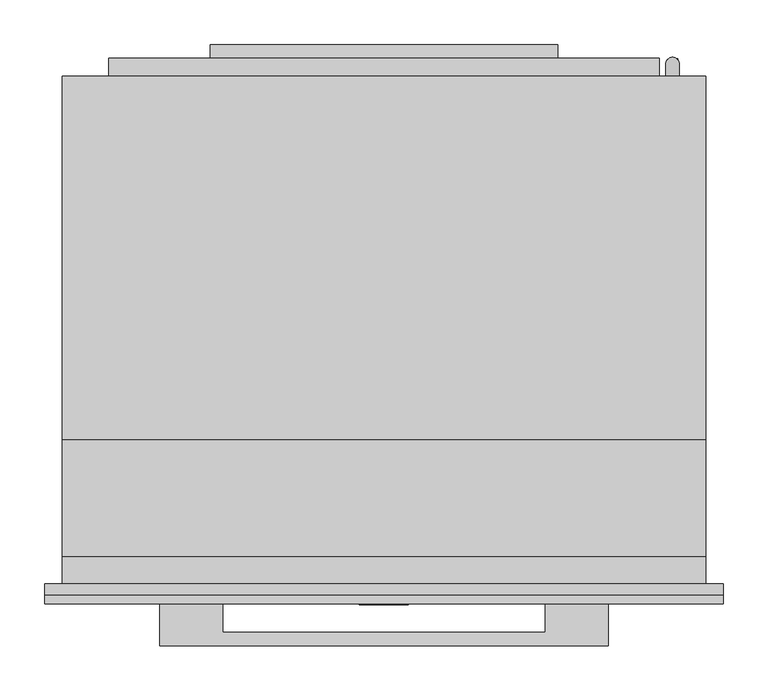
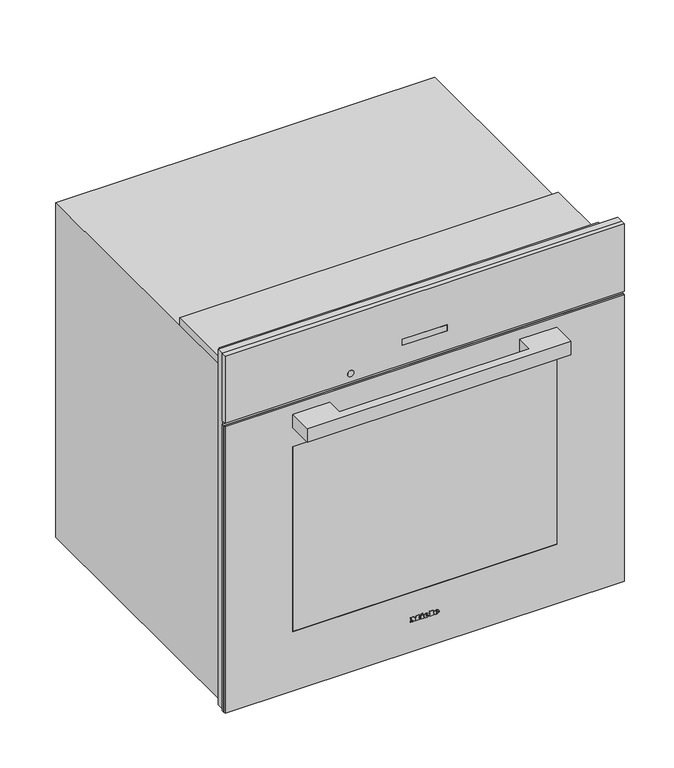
"""IFC4 building model written with IfcOpenShell, lengths in millimetres: proxy geometry, 11968200_USA_H7280BP_OBSW : 22728025_USA_11968200_H7280BP_OBSW."""

from ifc_helpers import new_model, si_unit, point, frame, frame_2d, origin, place, context, project, spatial, polyline, circle_curve, ellipse_curve, trimmed, segment, composite_curve, outline, extrude, faceted_brep, source, transform, mapped, element, save
from ifc_brep_helpers import plane_surface, cylinder_surface, revolved_surface, extruded_surface, advanced_brep


def specialty_equipment_3b69b740(model_context):
    return source(origin(), model_context, "Body", "SolidModel", [
        advanced_brep(
        [(21.28, -23.0, 73.133), (21.28, -23.0, 74.042), (27.301, -23.0, 74.042), (16.825, -23.0, 74.042), (19.3, -23.0, 71.0), (27.148, -23.0, 73.133), (24.43, -23.0, 73.133), (22.288, -23.0, 72.125), (21.28, -23.0, 75.194), (21.28, -23.0, 76.175), (22.819, -23.0, 76.175), (22.819, -23.0, 75.194), (21.28, -22.0, 73.133), (22.288, -22.0, 72.125), (24.43, -22.0, 73.133), (27.148, -22.0, 73.133), (19.3, -22.0, 71.0), (16.825, -22.0, 74.042), (27.301, -22.0, 74.042), (21.28, -22.0, 74.042), (21.28, -22.0, 75.194), (22.819, -22.0, 75.194), (22.819, -22.0, 76.175), (21.28, -22.0, 76.175)],
        [
            (0, 1),
            (1, 2),
            (2, 3, ellipse_curve(frame((22.063, -23.0, 74.042), z_axis=(0.0, -1.0, 0.0), x_axis=(-1.0, 0.0, 0.0)), 5.238, 4.329)),
            (3, 4, circle_curve(frame((20.3080491, -23.0, 74.348), z_axis=(0.0, -1.0, 0.0), x_axis=(0.0, 0.0, -1.0)), 3.4964649)),
            (4, 5, circle_curve(frame((21.9581428, -23.0, 76.724), z_axis=(0.0, -1.0, 0.0), x_axis=(0.0, 0.0, -1.0)), 6.3110933)),
            (5, 6),
            (6, 7, circle_curve(frame((22.7279412, -23.0, 73.97), z_axis=(0.0, 1.0, 0.0), x_axis=(0.0, 0.0, -1.0)), 1.896727)),
            (7, 0, circle_curve(frame((22.288, -23.0, 73.133), z_axis=(0.0, 1.0, 0.0), x_axis=(0.0, 0.0, -1.0)), 1.008)),
            (8, 9),
            (9, 10, circle_curve(frame((22.0495, -23.0, 76.175), z_axis=(0.0, 1.0, 0.0), x_axis=(0.0, 0.0, -1.0)), 0.7695)),
            (10, 11),
            (11, 8),
            (12, 13, circle_curve(frame((22.288, -22.0, 73.133), z_axis=(0.0, -1.0, 0.0), x_axis=(0.0, 0.0, -1.0)), 1.008)),
            (13, 14, circle_curve(frame((22.7279412, -22.0, 73.97), z_axis=(0.0, -1.0, 0.0), x_axis=(0.0, 0.0, -1.0)), 1.896727)),
            (14, 15),
            (15, 16, circle_curve(frame((21.9581428, -22.0, 76.724), z_axis=(0.0, 1.0, 0.0), x_axis=(0.0, 0.0, -1.0)), 6.3110933)),
            (16, 17, circle_curve(frame((20.3080491, -22.0, 74.348), z_axis=(0.0, 1.0, 0.0), x_axis=(0.0, 0.0, -1.0)), 3.4964649)),
            (17, 18, ellipse_curve(frame((22.063, -22.0, 74.042), z_axis=(0.0, 1.0, 0.0), x_axis=(-1.0, 0.0, 0.0)), 5.238, 4.329)),
            (18, 19),
            (19, 12),
            (20, 21),
            (21, 22),
            (22, 23, circle_curve(frame((22.0495, -22.0, 76.175), z_axis=(0.0, -1.0, 0.0), x_axis=(0.0, 0.0, -1.0)), 0.7695)),
            (23, 20),
            (0, 12),
            (19, 1),
            (18, 2),
            (5, 15),
            (14, 6),
            (17, 3),
            (13, 7),
            (16, 4),
            (8, 20),
            (23, 9),
            (22, 10),
            (21, 11),
        ],
        [
            plane_surface(frame((21.28, -23.0, 74.042), z_axis=(0.0, -1.0, 0.0), x_axis=(0.0, 0.0, 1.0))),
            plane_surface(frame((21.28, -22.0, 74.042), z_axis=(0.0, 1.0, 0.0), x_axis=(0.0, 0.0, -1.0))),
            plane_surface(frame((21.28, -23.0, 73.133), z_axis=(1.0, 0.0, 0.0), x_axis=(0.0, 1.0, 0.0))),
            plane_surface(frame((21.28, -23.0, 74.042), z_axis=(0.0, 0.0, -1.0), x_axis=(0.0, 1.0, 0.0))),
            plane_surface(frame((27.148, -23.0, 73.133), z_axis=(0.0, 0.0, 1.0), x_axis=(0.0, 1.0, 0.0))),
            extruded_surface(trimmed(ellipse_curve(frame((22.063, -21.0, 74.042), z_axis=(0.0, -1.0, 0.0), x_axis=(-1.0, 0.0, 0.0)), 5.238, 4.329), [point((27.301, -21.0, 74.042))], [point((16.825, -21.0, 74.042))], True, "CARTESIAN"), (0.0, -1.0, 0.0), 1.0),
            revolved_surface(polyline([(22.7279412, -22.0, 72.073273), (22.7279412, -23.0, 72.073273)]), (22.7279412, -22.0, 73.97), (0.0, 1.0, 0.0)),
            revolved_surface(polyline([(22.288, -22.0, 72.125), (22.288, -23.0, 72.125)]), (22.288, -22.0, 73.133), (0.0, 1.0, 0.0)),
            cylinder_surface(frame((20.3080491, -22.0, 74.348), z_axis=(0.0, -1.0, 0.0), x_axis=(0.0, 0.0, -1.0)), 3.4964649),
            cylinder_surface(frame((21.9581428, -22.0, 76.724), z_axis=(0.0, -1.0, 0.0), x_axis=(0.0, 0.0, -1.0)), 6.3110933),
            plane_surface(frame((21.28, -23.0, 75.194), z_axis=(1.0, 0.0, 0.0), x_axis=(0.0, 1.0, 0.0))),
            revolved_surface(polyline([(22.0495, -22.0, 75.4055), (22.0495, -23.0, 75.4055)]), (22.0495, -22.0, 76.175), (0.0, 1.0, 0.0)),
            plane_surface(frame((22.819, -23.0, 76.175), z_axis=(-1.0, 0.0, 0.0), x_axis=(0.0, 1.0, 0.0))),
            plane_surface(frame((22.819, -23.0, 75.194), z_axis=(0.0, 0.0, 1.0), x_axis=(0.0, 1.0, 0.0))),
        ],
        [
            (0, [[1, 2, 3, 4, 5, 6, 7, 8], [9, 10, 11, 12]]),
            (1, [[13, 14, 15, 16, 17, 18, 19, 20], [21, 22, 23, 24]]),
            (2, [[-1, 25, -20, 26]]),
            (3, [[-2, -26, -19, 27]]),
            (4, [[-6, 28, -15, 29]]),
            (5, [[-3, -27, -18, 30]]),
            (6, [[-7, -29, -14, 31]]),
            (7, [[-8, -31, -13, -25]]),
            (8, [[-4, -30, -17, 32]]),
            (9, [[-5, -32, -16, -28]]),
            (10, [[-9, 33, -24, 34]]),
            (11, [[-10, -34, -23, 35]]),
            (12, [[-11, -35, -22, 36]]),
            (13, [[-12, -36, -21, -33]]),
        ],
    ),
        advanced_brep(
        [(2.497, -23.0, 73.133), (2.497, -23.0, 74.042), (8.518, -23.0, 74.042), (-1.958, -23.0, 74.042), (0.517, -23.0, 71.0), (8.365, -23.0, 73.133), (5.647, -23.0, 73.133), (3.505, -23.0, 72.125), (2.497, -23.0, 75.194), (2.497, -23.0, 76.175), (4.036, -23.0, 76.175), (4.036, -23.0, 75.194), (2.497, -22.0, 73.133), (3.505, -22.0, 72.125), (5.647, -22.0, 73.133), (8.365, -22.0, 73.133), (0.517, -22.0, 71.0), (-1.958, -22.0, 74.042), (8.518, -22.0, 74.042), (2.497, -22.0, 74.042), (2.497, -22.0, 75.194), (4.036, -22.0, 75.194), (4.036, -22.0, 76.175), (2.497, -22.0, 76.175)],
        [
            (0, 1),
            (1, 2),
            (2, 3, ellipse_curve(frame((3.28, -23.0, 74.042), z_axis=(0.0, -1.0, 0.0), x_axis=(-1.0, 0.0, 0.0)), 5.238, 4.329)),
            (3, 4, circle_curve(frame((1.5250491, -23.0, 74.348), z_axis=(0.0, -1.0, 0.0), x_axis=(0.0, 0.0, -1.0)), 3.4964649)),
            (4, 5, circle_curve(frame((3.1751428, -23.0, 76.724), z_axis=(0.0, -1.0, 0.0), x_axis=(0.0, 0.0, -1.0)), 6.3110933)),
            (5, 6),
            (6, 7, circle_curve(frame((3.9449412, -23.0, 73.97), z_axis=(0.0, 1.0, 0.0), x_axis=(0.0, 0.0, -1.0)), 1.896727)),
            (7, 0, circle_curve(frame((3.505, -23.0, 73.133), z_axis=(0.0, 1.0, 0.0), x_axis=(0.0, 0.0, -1.0)), 1.008)),
            (8, 9),
            (9, 10, circle_curve(frame((3.2665, -23.0, 76.175), z_axis=(0.0, 1.0, 0.0), x_axis=(0.0, 0.0, -1.0)), 0.7695)),
            (10, 11),
            (11, 8),
            (12, 13, circle_curve(frame((3.505, -22.0, 73.133), z_axis=(0.0, -1.0, 0.0), x_axis=(0.0, 0.0, -1.0)), 1.008)),
            (13, 14, circle_curve(frame((3.9449412, -22.0, 73.97), z_axis=(0.0, -1.0, 0.0), x_axis=(0.0, 0.0, -1.0)), 1.896727)),
            (14, 15),
            (15, 16, circle_curve(frame((3.1751428, -22.0, 76.724), z_axis=(0.0, 1.0, 0.0), x_axis=(0.0, 0.0, -1.0)), 6.3110933)),
            (16, 17, circle_curve(frame((1.5250491, -22.0, 74.348), z_axis=(0.0, 1.0, 0.0), x_axis=(0.0, 0.0, -1.0)), 3.4964649)),
            (17, 18, ellipse_curve(frame((3.28, -22.0, 74.042), z_axis=(0.0, 1.0, 0.0), x_axis=(-1.0, 0.0, 0.0)), 5.238, 4.329)),
            (18, 19),
            (19, 12),
            (20, 21),
            (21, 22),
            (22, 23, circle_curve(frame((3.2665, -22.0, 76.175), z_axis=(0.0, -1.0, 0.0), x_axis=(0.0, 0.0, -1.0)), 0.7695)),
            (23, 20),
            (0, 12),
            (19, 1),
            (18, 2),
            (5, 15),
            (14, 6),
            (17, 3),
            (13, 7),
            (16, 4),
            (8, 20),
            (23, 9),
            (22, 10),
            (21, 11),
        ],
        [
            plane_surface(frame((2.497, -23.0, 74.042), z_axis=(0.0, -1.0, 0.0), x_axis=(0.0, 0.0, 1.0))),
            plane_surface(frame((2.497, -22.0, 74.042), z_axis=(0.0, 1.0, 0.0), x_axis=(0.0, 0.0, -1.0))),
            plane_surface(frame((2.497, -23.0, 73.133), z_axis=(1.0, 0.0, 0.0), x_axis=(0.0, 1.0, 0.0))),
            plane_surface(frame((2.497, -23.0, 74.042), z_axis=(0.0, 0.0, -1.0), x_axis=(0.0, 1.0, 0.0))),
            plane_surface(frame((8.365, -23.0, 73.133), z_axis=(0.0, 0.0, 1.0), x_axis=(0.0, 1.0, 0.0))),
            extruded_surface(trimmed(ellipse_curve(frame((3.28, -21.0, 74.042), z_axis=(0.0, -1.0, 0.0), x_axis=(-1.0, 0.0, 0.0)), 5.238, 4.329), [point((8.518, -21.0, 74.042))], [point((-1.958, -21.0, 74.042))], True, "CARTESIAN"), (0.0, -1.0, 0.0), 1.0),
            revolved_surface(polyline([(3.9449412, -22.0, 72.073273), (3.9449412, -23.0, 72.073273)]), (3.9449412, -22.0, 73.97), (0.0, 1.0, 0.0)),
            revolved_surface(polyline([(3.505, -22.0, 72.125), (3.505, -23.0, 72.125)]), (3.505, -22.0, 73.133), (0.0, 1.0, 0.0)),
            cylinder_surface(frame((1.5250491, -22.0, 74.348), z_axis=(0.0, -1.0, 0.0), x_axis=(0.0, 0.0, -1.0)), 3.4964649),
            cylinder_surface(frame((3.1751428, -22.0, 76.724), z_axis=(0.0, -1.0, 0.0), x_axis=(0.0, 0.0, -1.0)), 6.3110933),
            plane_surface(frame((2.497, -23.0, 75.194), z_axis=(1.0, 0.0, 0.0), x_axis=(0.0, 1.0, 0.0))),
            revolved_surface(polyline([(3.2665, -22.0, 75.4055), (3.2665, -23.0, 75.4055)]), (3.2665, -22.0, 76.175), (0.0, 1.0, 0.0)),
            plane_surface(frame((4.036, -23.0, 76.175), z_axis=(-1.0, 0.0, 0.0), x_axis=(0.0, 1.0, 0.0))),
            plane_surface(frame((4.036, -23.0, 75.194), z_axis=(0.0, 0.0, 1.0), x_axis=(0.0, 1.0, 0.0))),
        ],
        [
            (0, [[1, 2, 3, 4, 5, 6, 7, 8], [9, 10, 11, 12]]),
            (1, [[13, 14, 15, 16, 17, 18, 19, 20], [21, 22, 23, 24]]),
            (2, [[-1, 25, -20, 26]]),
            (3, [[-2, -26, -19, 27]]),
            (4, [[-6, 28, -15, 29]]),
            (5, [[-3, -27, -18, 30]]),
            (6, [[-7, -29, -14, 31]]),
            (7, [[-8, -31, -13, -25]]),
            (8, [[-4, -30, -17, 32]]),
            (9, [[-5, -32, -16, -28]]),
            (10, [[-9, 33, -24, 34]]),
            (11, [[-10, -34, -23, 35]]),
            (12, [[-11, -35, -22, 36]]),
            (13, [[-12, -36, -21, -33]]),
        ],
    ),
        extrude(outline(polyline([(79.469, -7.34), (78.011, -6.656), (79.433, -3.605), (80.891, -4.28), (79.469, -7.34)])), frame((0.0, -23.0, 0.0), z_axis=(0.0, 1.0, 0.0), x_axis=(0.0, 0.0, 1.0)), (0.0, 0.0, 1.0), 1.0),
        extrude(outline(polyline([(77.813, -9.563), (76.202, -9.563), (76.202, -8.492), (72.512, -8.492), (72.512, -9.563), (71.0, -9.563), (71.0, -2.462), (72.512, -2.462), (72.512, -3.506), (77.813, -3.506), (77.813, -9.563)])), frame((0.0, -23.0, 0.0), z_axis=(0.0, 1.0, 0.0), x_axis=(0.0, 0.0, 1.0)), (0.0, 0.0, 1.0), 1.0),
        extrude(outline(polyline([(78.533, 9.022), (78.533, 10.102), (72.512, 10.102), (72.512, 9.022), (71.0, 9.022), (71.0, 16.321), (72.512, 16.321), (72.512, 15.214), (80.0, 15.214), (80.0, 9.022), (78.533, 9.022)])), frame((0.0, -23.0, 0.0), z_axis=(0.0, 1.0, 0.0), x_axis=(0.0, 0.0, 1.0)), (0.0, 0.0, 1.0), 1.0),
        extrude(outline(polyline([(78.533, -27.5), (78.533, -26.411), (72.512, -26.411), (72.512, -27.5), (71.0, -27.5), (71.0, -23.54), (72.512, -23.54), (72.512, -24.62), (76.3341247, -24.62), (71.0, -20.597), (76.4402223, -16.556), (72.512, -16.556), (72.512, -17.663), (71.0, -17.663), (71.0, -10.481), (72.512, -10.481), (72.512, -11.624), (78.533, -11.624), (78.533, -10.481), (80.0, -10.481), (80.0, -15.962), (76.625, -18.59), (80.0, -21.227), (80.0, -27.5), (78.533, -27.5)])), frame((0.0, -23.0, 0.0), z_axis=(0.0, 1.0, 0.0), x_axis=(0.0, 0.0, 1.0)), (0.0, 0.0, 1.0), 1.0),
        extrude(outline(polyline([(-250.0, -69.0), (-250.0, -22.0), (-180.0, -22.0), (-180.0, -54.0), (180.0, -54.0), (180.0, -22.0), (250.0, -22.0), (250.0, -69.0), (-250.0, -69.0)])), frame((0.0, 0.0, 538.0), z_axis=(0.0, 0.0, 1.0), x_axis=(1.0, 0.0, 0.0)), (0.0, 0.0, 1.0), 27.0),
        extrude(outline(polyline([(378.5, -18.0), (-378.5, -18.0), (-378.5, -13.0), (378.5, -13.0), (378.5, -18.0)])), frame((0.0, 0.0, 11.0), z_axis=(0.0, 0.0, 1.0), x_axis=(1.0, 0.0, 0.0)), (0.0, 0.0, 1.0), 574.0),
        extrude(outline(polyline([(585.0, 378.5), (585.0, -378.5), (11.0, -378.5), (11.0, 378.5), (585.0, 378.5)]), holes=[polyline([(500.0, 250.5), (130.0, 250.5), (130.0, -250.5), (500.0, -250.5), (500.0, 250.5)])]), frame((0.0, -22.0, 0.0), z_axis=(0.0, 1.0, 0.0), x_axis=(0.0, 0.0, 1.0)), (0.0, 0.0, 1.0), 4.0),
        extrude(outline(polyline([(-250.5, -18.0), (250.5, -18.0), (250.5, -22.0), (-250.5, -22.0), (-250.5, -18.0)])), frame((0.0, 0.0, 130.0), z_axis=(0.0, 0.0, 1.0), x_axis=(1.0, 0.0, 0.0)), (0.0, 0.0, 1.0), 370.0),
        extrude(outline(polyline([(-42.5, -21.0), (42.5, -21.0), (42.5, -22.0), (-42.5, -22.0), (-42.5, -21.0)])), frame((0.0, 0.0, 630.5), z_axis=(0.0, 0.0, 1.0), x_axis=(1.0, 0.0, 0.0)), (0.0, 0.0, 1.0), 12.0),
        faceted_brep([(378.5, -13.0, 727.0), (378.5, -13.0, 592.0), (-378.5, -13.0, 592.0), (-378.5, -13.0, 727.0), (378.5, -22.0, 592.0), (-378.5, -22.0, 592.0), (378.5, -22.0, 727.0), (-378.5, -22.0, 727.0), (42.5, -22.0, 642.5), (42.5, -22.0, 630.5), (-42.5, -22.0, 630.5), (-42.5, -22.0, 642.5), (-42.5, -21.0, 630.5), (-42.5, -21.0, 642.5), (42.5, -21.0, 642.5), (42.5, -21.0, 630.5)], [[[0, 1, 2, 3]], [[4, 5, 2, 1]], [[6, 7, 5, 4], [8, 9, 10, 11]], [[12, 13, 11, 10]], [[13, 14, 8, 11]], [[7, 6, 0, 3]], [[5, 7, 3, 2]], [[6, 4, 1, 0]], [[14, 13, 12, 15]], [[14, 15, 9, 8]], [[15, 12, 10, 9]]]),
        extrude(outline(composite_curve([segment(trimmed(circle_curve(frame_2d((609.0, -140.5745637)), 6.0), [point((609.0, -146.5745637))], [point((609.0, -134.5745637))], False, "CARTESIAN"), True, "CONTINUOUS"), segment(trimmed(circle_curve(frame_2d((609.0, -140.5745637)), 6.0), [point((609.0, -134.5745637))], [point((609.0, -146.5745637))], False, "CARTESIAN"), True, "CONTINUOUS")], self_intersect=False)), frame((0.0, -22.5, 0.0), z_axis=(0.0, 1.0, 0.0), x_axis=(0.0, 0.0, 1.0)), (0.0, 0.0, 1.0), 1.0),
        extrude(outline(polyline([(327.856335, 586.4164958), (327.856335, 576.4164958), (322.0, 576.4164958), (322.0, 577.4164958), (326.856335, 577.4164958), (326.856335, 580.9164958), (323.9061855, 580.9164958), (323.9061855, 581.9164958), (326.856335, 581.9164958), (326.856335, 585.4164958), (322.0, 585.4164958), (322.0, 586.4164958), (327.856335, 586.4164958)])), frame((0.0, 0.0, 585.0), z_axis=(0.0, 0.0, 1.0), x_axis=(1.0, 0.0, 0.0)), (0.0, 0.0, 1.0), 1.0),
        extrude(outline(polyline([(320.5, 576.4164958), (315.5, 576.4164958), (315.5, 577.4164958), (319.3952098, 577.4164958), (319.3952098, 586.4164958), (320.5, 586.4164958), (320.5, 576.4164958)])), frame((0.0, 0.0, 585.0), z_axis=(0.0, 0.0, 1.0), x_axis=(1.0, 0.0, 0.0)), (0.0, 0.0, 1.0), 1.0),
        advanced_brep(
        [(329.5, 567.0, 616.0), (314.5, 567.0, 616.0), (329.5, 580.5, 616.0), (314.5, 580.5, 616.0), (329.5, 580.5, 586.0), (314.5, 580.5, 586.0)],
        [
            (0, 1, circle_curve(frame((322.0, 567.0, 616.0), z_axis=(0.0, -1.0, 0.0), x_axis=(-1.0, 0.0, 0.0)), 7.5)),
            (1, 0, circle_curve(frame((322.0, 567.0, 616.0), z_axis=(0.0, -1.0, 0.0), x_axis=(-1.0, 0.0, 0.0)), 7.5)),
            (0, 2),
            (2, 3, ellipse_curve(frame((322.0, 580.5, 616.0), z_axis=(0.0, -0.7071067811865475, 0.7071067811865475), x_axis=(0.0, -0.7071067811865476, -0.7071067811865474)), 10.6066017, 7.5)),
            (3, 1),
            (3, 2, ellipse_curve(frame((322.0, 580.5, 616.0), z_axis=(0.0, -0.7071067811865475, 0.7071067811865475), x_axis=(0.0, -0.7071067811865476, -0.7071067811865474)), 10.6066017, 7.5)),
            (4, 5, circle_curve(frame((322.0, 580.5, 586.0), z_axis=(0.0, 0.0, -1.0), x_axis=(-1.0, 0.0, 0.0)), 7.5)),
            (5, 4, circle_curve(frame((322.0, 580.5, 586.0), z_axis=(0.0, 0.0, -1.0), x_axis=(-1.0, 0.0, 0.0)), 7.5)),
            (2, 4),
            (5, 3),
        ],
        [
            plane_surface(frame((322.0, 567.0, 616.0), z_axis=(0.0, -1.0, 0.0), x_axis=(-1.0, 0.0, 0.0))),
            cylinder_surface(frame((322.0, 567.0, 616.0), z_axis=(0.0, -1.0, 0.0), x_axis=(-1.0, 0.0, 0.0)), 7.5),
            plane_surface(frame((322.0, 580.5, 586.0), z_axis=(0.0, 0.0, -1.0), x_axis=(-1.0, 0.0, 0.0))),
            cylinder_surface(frame((322.0, 580.5, 616.0), z_axis=(0.0, 0.0, 1.0), x_axis=(-1.0, 0.0, 0.0)), 7.5),
        ],
        [
            (0, [[1, 2]]),
            (1, [[-1, 3, 4, 5]]),
            (1, [[-2, -5, 6, -3]]),
            (2, [[7, 8]]),
            (3, [[-4, 9, -8, 10]]),
            (3, [[-6, -10, -7, -9]]),
        ],
    ),
        faceted_brep([(353.5, 25.0, 593.0), (-353.5, 25.0, 593.0), (-353.5, 25.0, 15.0), (353.5, 25.0, 15.0), (-312.5, 25.0, 526.0), (312.5, 25.0, 526.0), (312.5, 25.0, 103.0), (-312.5, 25.0, 103.0), (353.5, 0.0, 593.0), (-353.5, 0.0, 593.0), (-353.5, 0.0, 15.0), (353.5, 0.0, 15.0), (359.0, 0.0, 670.0), (359.0, 0.0, 0.0), (359.0, 567.0, 0.0), (359.0, 567.0, 670.0), (-359.0, 0.0, 0.0), (-359.0, 0.0, 670.0), (-359.0, 567.0, 670.0), (-359.0, 567.0, 0.0), (-307.0, 567.0, 0.0), (-307.0, 587.0, 0.0), (307.0, 587.0, 0.0), (307.0, 567.0, 0.0), (-307.0, 587.0, 584.0), (307.0, 587.0, 584.0), (312.5, 433.0, 526.0), (-312.5, 433.0, 526.0), (-312.5, 433.0, 103.0), (312.5, 433.0, 103.0), (-307.0, 567.0, 584.0), (307.0, 567.0, 584.0)], [[[0, 1, 2, 3], [4, 5, 6, 7]], [[1, 0, 8, 9]], [[2, 1, 9, 10]], [[0, 3, 11, 8]], [[12, 13, 14, 15]], [[16, 17, 18, 19]], [[13, 16, 19, 20, 21, 22, 23, 14]], [[22, 21, 24, 25]], [[17, 12, 15, 18]], [[16, 13, 12, 17], [9, 8, 11, 10]], [[26, 27, 28, 29]], [[27, 26, 5, 4]], [[28, 27, 4, 7]], [[29, 28, 7, 6]], [[26, 29, 6, 5]], [[3, 2, 10, 11]], [[25, 24, 30, 31]], [[20, 30, 24, 21]], [[14, 23, 31, 30, 20, 19, 18, 15]], [[31, 23, 22, 25]]]),
        extrude(outline(polyline([(-194.0, 602.0), (194.0, 602.0), (194.0, 587.0), (-194.0, 587.0), (-194.0, 602.0)])), frame((0.0, 0.0, 230.0), z_axis=(0.0, 0.0, 1.0), x_axis=(1.0, 0.0, 0.0)), (0.0, 0.0, 1.0), 158.0),
        extrude(outline(polyline([(30.0, 705.0), (30.0, 686.0), (161.0, 686.0), (161.0, 670.0), (0.0, 670.0), (0.0, 705.0), (30.0, 705.0)])), frame((-359.0, 0.0, 0.0), z_axis=(1.0, 0.0, 0.0), x_axis=(0.0, 1.0, 0.0)), (0.0, 0.0, 1.0), 718.0),
        extrude(outline(polyline([(15.0, 378.5), (727.0, 378.5), (727.0, -378.5), (15.0, -378.5), (15.0, -353.5), (593.0, -353.5), (593.0, 353.5), (15.0, 353.5), (15.0, 378.5)])), frame((0.0, -13.0, 0.0), z_axis=(0.0, 1.0, 0.0), x_axis=(0.0, 0.0, 1.0)), (0.0, 0.0, 1.0), 13.0),
    ])


if __name__ == "__main__":
    model = new_model("IFC4")
    model_context = context("Model", 3, world=origin())
    ifc_project = project(units=[si_unit("LENGTHUNIT", "METRE", prefix="MILLI")], contexts=[model_context])
    site = spatial("IfcSite", under=ifc_project)
    building = spatial("IfcBuilding", under=site)
    placement = place(None, origin())
    specialty_equipment_shape = specialty_equipment_3b69b740(model_context)
    element("IfcBuildingElementProxy", 1, Name="11968200_USA_H7280BP_OBSW : 22728025_USA_11968200_H7280BP_OBSW", ObjectType="11968200_USA_H7280BP_OBSW : 22728025_USA_11968200_H7280BP_OBSW", at=placement, inside=building, context=model_context, shape_type="MappedRepresentation", body=[
        mapped(specialty_equipment_shape, transform((0.0, 0.0, 0.0), x_axis=(1.0, 0.0, 0.0), y_axis=(0.0, 1.0, 0.0), z_axis=(0.0, 0.0, 1.0))),
    ])
    save(model, "model.ifc")
